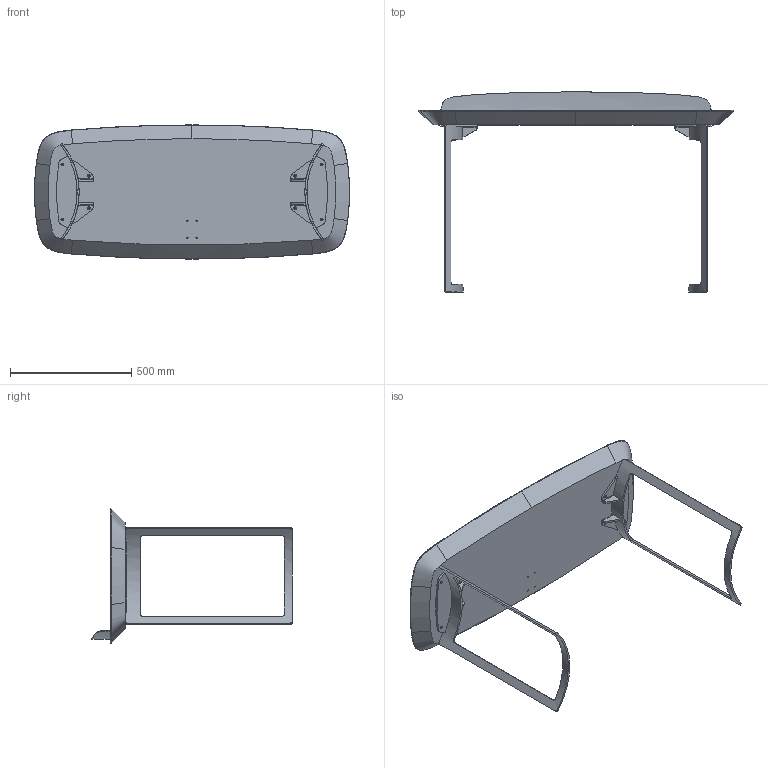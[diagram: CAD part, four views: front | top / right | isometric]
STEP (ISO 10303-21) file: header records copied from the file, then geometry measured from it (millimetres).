
FILE_DESCRIPTION (( 'STEP AP203' ), '1' );
FILE_NAME ('IC01W_Icon Desk_130x59x75h.STEP', '2024-08-06T07:13:55', ( '' ), ( '' ), 'SwSTEP 2.0', 'SolidWorks 2022', '' );
FILE_SCHEMA (( 'CONFIG_CONTROL_DESIGN' ));
Length unit declared in the file: millimetre
Products named in the file (6): SCR000000GXX-00-SCRIVANIE GAMBA_GAMBA H.69cm PER  ICON; ICO000000PNO-02-ICON SCRIVANIA_default; IC01W_Icon Desk_130x59x75h; SCRC000V05-00-LYRA_ICON CORNICE TOP VERNICIATA V05 BRONZO GOFFRATO.SLDDRW_piegata; SCR000000G69-02-GAMBA H.69cm PER ICON E LIRA_GAMBA 69; SCR000000GXX-00-PIASTRA DI FISSAGGIO SUPERIORE
Assembly tree (6 placements, depth 3):
  IC01W_Icon Desk_130x59x75h
    ICO000000PNO-02-ICON SCRIVANIA_default
    SCR000000G69-02-GAMBA H.69cm PER ICON E LIRA_GAMBA 69  x2
      SCR000000GXX-00-SCRIVANIE GAMBA_GAMBA H.69cm PER  ICON
      SCR000000GXX-00-PIASTRA DI FISSAGGIO SUPERIORE
    SCRC000V05-00-LYRA_ICON CORNICE TOP VERNICIATA V05 BRONZO GOFFRATO.SLDDRW_piegata
Bounding box: 1300.29 x 826.94 x 554 mm (x, y, z)
Volume: 37089156.6 mm3; surface area: 2145497.5 mm2
Topology: 6 solids, 6 shells, 361 faces, 951 edges, 591 vertices
Faces by surface type: cylinder 164, plane 123, cone 33, bspline 31, torus 10
Entity records: 12415 total; most frequent: CARTESIAN_POINT 5983, ORIENTED_EDGE 1286, DIRECTION 1079, EDGE_CURVE 643, AXIS2_PLACEMENT_3D 415, VERTEX_POINT 407, EDGE_LOOP 282, ADVANCED_FACE 257
